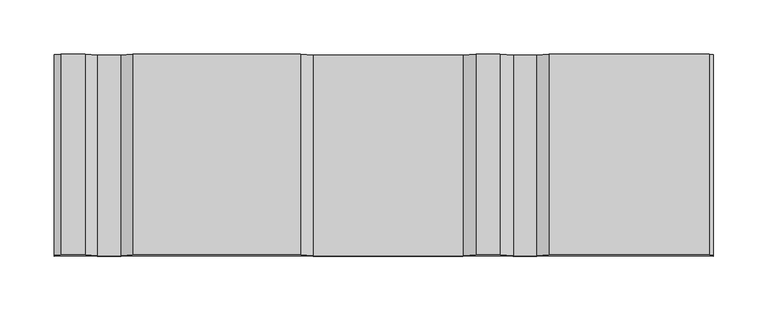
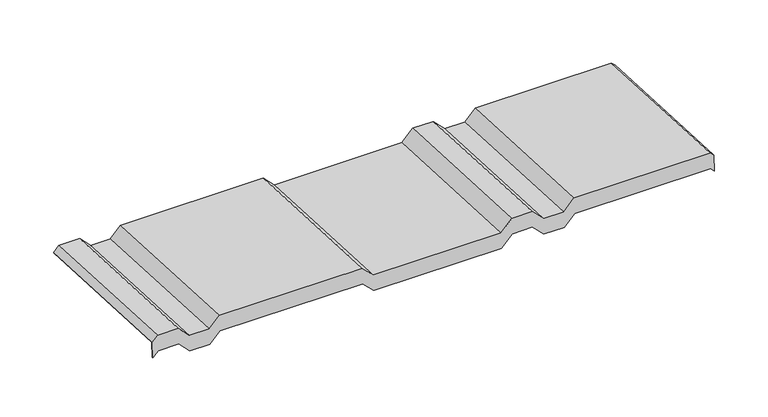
"""IFC4 building model written with IfcOpenShell, lengths in millimetres: proxy geometry, AQUAPLAST - Blachodachówka Alice : Blachodachówka Alice."""

import ifcopenshell
import ifcopenshell.guid

model = None  # the IFC model being written
_history = None  # IfcOwnerHistory: only IFC2X3 demands one
_inside = {}  # id of a spatial element -> (the spatial element, [elements in it])
_under = {}  # id of a project, library or spatial element -> (it, [spatial elements below it])
_declared = {}  # id of a project -> (the project, [libraries it declares])
_typed = {}  # id of a type object -> (the type object, [elements of that type])
_made_of = {}  # id of a material, layer set ... -> (it, [elements and type objects made of it])


def new_model(schema):
    """Start an empty IFC model of exactly this schema.

    Asked for "IFC4X3", IfcOpenShell would pick the latest addendum, in which some entities
    have other attributes; the version numbers below select the first issue.
    IFC2X3 requires an IfcOwnerHistory on every rooted entity: one is made here for all.
    """
    global model, _history
    if schema == "IFC4X3":
        model = ifcopenshell.file(schema_version=(4, 3, 0, 0))
    else:
        model = ifcopenshell.file(schema=schema)
    _inside.clear()
    _under.clear()
    _declared.clear()
    _typed.clear()
    _made_of.clear()
    _history = None
    if model.schema == "IFC2X3":
        org = make("IfcOrganization", Name="unknown")
        user = make(
            "IfcPersonAndOrganization",
            ThePerson=make("IfcPerson", FamilyName="unknown"),
            TheOrganization=org,
        )
        app = make(
            "IfcApplication",
            ApplicationDeveloper=org,
            Version="unknown",
            ApplicationFullName="unknown",
            ApplicationIdentifier="unknown",
        )
        _history = make(
            "IfcOwnerHistory",
            OwningUser=user,
            OwningApplication=app,
            ChangeAction="ADDED",
            CreationDate=0,
        )
    return model


def make(cls, **values):
    """One entity of the class cls with the attributes given. An attribute that is None is left unset."""
    return model.create_entity(
        cls, **{name: value for name, value in values.items() if value is not None}
    )


def rooted(cls, **values):
    """An entity with a GlobalId (a new one), such as an element, a storey or a relation."""
    return make(cls, GlobalId=ifcopenshell.guid.new(), OwnerHistory=_history, **values)


def si_unit(unit_type, name, prefix=None):
    """IfcSIUnit, for example si_unit("LENGTHUNIT", "METRE", prefix="MILLI")."""
    return make("IfcSIUnit", UnitType=unit_type, Prefix=prefix, Name=name)


def assignment(units):
    """IfcUnitAssignment: the units of a project."""
    return None if units is None else make("IfcUnitAssignment", Units=units)


def point(xyz):
    """IfcCartesianPoint."""
    return None if xyz is None else make("IfcCartesianPoint", Coordinates=xyz)


def direction(xyz):
    """IfcDirection."""
    return None if xyz is None else make("IfcDirection", DirectionRatios=xyz)


def frame(location, z_axis=None, x_axis=None):
    """IfcAxis2Placement3D, a coordinate frame: its origin and axes. An axis left out is left unset."""
    return make(
        "IfcAxis2Placement3D",
        Location=point(location),
        Axis=direction(z_axis),
        RefDirection=direction(x_axis),
    )


def origin():
    """The frame at (0, 0, 0) with its axes left unset."""
    return frame((0.0, 0.0, 0.0))


def place(relative_to, where):
    """IfcLocalPlacement: puts the frame where relative to a parent placement (None: the world)."""
    return make(
        "IfcLocalPlacement", PlacementRelTo=relative_to, RelativePlacement=where
    )


def context(
    kind, dimensions, precision=None, world=None, true_north=None, identifier=None
):
    """IfcGeometricRepresentationContext, for example the 3D "Model" context."""
    return make(
        "IfcGeometricRepresentationContext",
        ContextIdentifier=identifier,
        ContextType=kind,
        CoordinateSpaceDimension=dimensions,
        Precision=precision,
        WorldCoordinateSystem=world,
        TrueNorth=true_north,
    )


def project(units=None, contexts=None):
    """IfcProject with its units and contexts."""
    return rooted(
        "IfcProject",
        Name="project",
        RepresentationContexts=contexts,
        UnitsInContext=assignment(units),
    )


def spatial(cls, under=None, at=None, **own):
    """A site, building, storey or space (cls), placed at a placement, below another one or the project."""
    s = rooted(cls, ObjectPlacement=at, **own)
    if under is not None:
        _under.setdefault(under.id(), (under, []))[1].append(s)
    return s


def faces_of(points, faces, orient=None, outer=None):
    """IfcFace entities. A face is a list of loops; a loop is a list of indices into points, from 0.

    orient and outer hold one flag for each loop. By default every Orientation is true, the
    first loop of a face is its IfcFaceOuterBound and the others are IfcFaceBound.
    """
    made = []
    for i, loops in enumerate(faces):
        bounds = []
        for j, loop in enumerate(loops):
            is_outer = j == 0 if outer is None else outer[i][j]
            bounds.append(
                make(
                    "IfcFaceOuterBound" if is_outer else "IfcFaceBound",
                    Bound=make("IfcPolyLoop", Polygon=[points[k] for k in loop]),
                    Orientation=True if orient is None else orient[i][j],
                )
            )
        made.append(make("IfcFace", Bounds=bounds))
    return made


def faceted_brep(points, faces, orient=None, outer=None, voids=None):
    """IfcFacetedBrep: a solid bounded by flat faces; with voids (closed shells), ...WithVoids."""
    shared = [point(p) for p in points]
    hull = make("IfcClosedShell", CfsFaces=faces_of(shared, faces, orient, outer))
    if voids is None:
        return make("IfcFacetedBrep", Outer=hull)
    return make(
        "IfcFacetedBrepWithVoids",
        Outer=hull,
        Voids=[
            make(cls, CfsFaces=faces_of(shared, fs, o, b)) for cls, fs, o, b in voids
        ],
    )


def shape(context_of_items, identifier, shape_type, items):
    """IfcShapeRepresentation: the items that make up one representation, for example the "Body"."""
    return make(
        "IfcShapeRepresentation",
        ContextOfItems=context_of_items,
        RepresentationIdentifier=identifier,
        RepresentationType=shape_type,
        Items=items,
    )


def source(mapping_origin, context_of_items, identifier, shape_type, items):
    """IfcRepresentationMap: a shape defined once, which mapped items show again and again."""
    return make(
        "IfcRepresentationMap",
        MappingOrigin=mapping_origin,
        MappedRepresentation=shape(context_of_items, identifier, shape_type, items),
    )


def transform(
    local_origin,
    x_axis=None,
    y_axis=None,
    z_axis=None,
    scale=None,
    scale2=None,
    scale3=None,
    uniform=True,
):
    """IfcCartesianTransformationOperator3D, or its non-uniform kind. x_axis, y_axis, z_axis: its Axis1, 2, 3."""
    if uniform:
        return make(
            "IfcCartesianTransformationOperator3D",
            Axis1=direction(x_axis),
            Axis2=direction(y_axis),
            LocalOrigin=point(local_origin),
            Scale=scale,
            Axis3=direction(z_axis),
        )
    return make(
        "IfcCartesianTransformationOperator3DnonUniform",
        Axis1=direction(x_axis),
        Axis2=direction(y_axis),
        LocalOrigin=point(local_origin),
        Scale=scale,
        Axis3=direction(z_axis),
        Scale2=scale2,
        Scale3=scale3,
    )


def mapped(mapping_source, mapping_target):
    """IfcMappedItem: shows the shape of a source again, moved by a transform."""
    return make(
        "IfcMappedItem", MappingSource=mapping_source, MappingTarget=mapping_target
    )


def made_of(thing, what):
    """Note that an element or type object is made of a material, layer set ...; save() writes the relation."""
    if what is not None:
        _made_of.setdefault(what.id(), (what, []))[1].append(thing)
    return thing


def element(
    cls,
    number,
    at=None,
    inside=None,
    cuts=None,
    type_object=None,
    material=None,
    context=None,
    identifier="Body",
    shape_type=None,
    held_by="IfcProductDefinitionShape",
    body=None,
    shapes=None,
    **own,
):
    """One element of the class cls, such as IfcWall. Its Tag is "e" and its number.

    at: its placement. inside: the storey or other place that contains it. cuts: it is an
    opening in that element (IfcRelVoidsElement). A single representation is given by context,
    identifier, shape_type and body (its items); several are given by shapes. held_by: the class
    of the entity that holds the representations. save() writes the other relations.
    """
    e = rooted(cls, Tag="e%d" % number, ObjectPlacement=at, **own)
    if body is not None:
        shapes = [shape(context, identifier, shape_type, body)]
    if shapes is not None:
        e.Representation = make(held_by, Representations=shapes)
    if inside is not None:
        _inside.setdefault(inside.id(), (inside, []))[1].append(e)
    if cuts is not None:
        rooted(
            "IfcRelVoidsElement", RelatingBuildingElement=cuts, RelatedOpeningElement=e
        )
    if type_object is not None:
        _typed.setdefault(type_object.id(), (type_object, []))[1].append(e)
    return made_of(e, material)


def aggregate(whole, parts):
    """IfcRelAggregates: a whole, such as a stair, and the parts it consists of."""
    return rooted("IfcRelAggregates", RelatingObject=whole, RelatedObjects=parts)


def save(model, path):
    """Write the relations noted so far, then the file.

    IfcRelAggregates (storeys below a building ...), IfcRelContainedInSpatialStructure (elements
    in a storey), IfcRelDefinesByType, IfcRelAssociatesMaterial and IfcRelDeclares: one each for
    every whole, place, type object, material and project.
    """
    for whole, parts in _under.values():
        aggregate(whole, parts)
    for where, things in _inside.values():
        rooted(
            "IfcRelContainedInSpatialStructure",
            RelatedElements=things,
            RelatingStructure=where,
        )
    for kind, things in _typed.values():
        rooted("IfcRelDefinesByType", RelatedObjects=things, RelatingType=kind)
    for what, things in _made_of.values():
        rooted("IfcRelAssociatesMaterial", RelatedObjects=things, RelatingMaterial=what)
    for by, libraries in _declared.values():
        rooted("IfcRelDeclares", RelatingContext=by, RelatedDefinitions=libraries)
    model.write(path)


def specialty_equipment_d8c5127a(model_context):
    return source(origin(), model_context, "Body", "Brep", [
        faceted_brep([(-571.7598776, 0.6696996, 23.5766757), (-565.8406904, 0.9640097, 29.4885417), (-543.7088996, 0.9640097, 29.4885417), (-532.2088996, 0.3922139, 18.0027657), (-510.4160064, 0.3922139, 18.0027657), (-499.4160064, 0.939149, 28.9891601), (-345.3126919, 0.939149, 28.9891601), (-333.8126919, 0.3673532, 17.5033841), (-195.7283858, 0.3673532, 17.5033841), (-183.7283858, 0.9640097, 29.4885417), (-161.9160064, 0.9640097, 29.4885417), (-149.9160064, 0.3673532, 17.5033841), (-127.9160064, 0.3673532, 17.5033841), (-116.4160064, 0.939149, 28.9891601), (30.3015709, 0.939149, 28.9891601), (34.2401224, 0.7433189, 25.0554801), (34.2401224, -0.0870281, 8.3761359), (30.3015709, 0.1088021, 12.3098159), (-116.4160064, 0.1088021, 12.3098159), (-127.9160064, -0.4629937, 0.8240399), (-149.9160064, -0.4629937, 0.8240399), (-161.9160064, 0.1336628, 12.8091974), (-183.7283858, 0.1336628, 12.8091974), (-195.7283858, -0.4629937, 0.8240399), (-333.8126919, -0.4629937, 0.8240399), (-345.3126919, 0.1088021, 12.3098159), (-499.4160064, 0.1088021, 12.3098159), (-510.4160064, -0.438133, 1.3234215), (-532.2088996, -0.438133, 1.3234215), (-543.7088996, 0.1336628, 12.8091974), (-565.8406904, 0.1336628, 12.8091974), (-571.7598776, -0.1606473, 6.8973315), (-566.0477972, -0.0098927, 30.0376446), (-571.7598776, -0.2939052, 24.3326293), (-571.7598776, -1.1594105, 6.9470529), (-565.8406904, -0.8651003, 12.8589188), (-543.7088996, -0.8651003, 12.8589188), (-532.2088996, -1.4368961, 1.3731429), (-510.4160064, -1.4368961, 1.3731429), (-499.4160064, -0.889961, 12.3595373), (-345.3126919, -0.889961, 12.3595373), (-333.8126919, -1.4617568, 0.8737613), (-195.7283858, -1.4617568, 0.8737613), (-183.7283858, -0.8651003, 12.8589188), (-161.9160064, -0.8651003, 12.8589188), (-149.9160064, -1.4617568, 0.8737613), (-127.9160064, -1.4617568, 0.8737613), (-116.4160064, -0.889961, 12.3595373), (30.3015709, -0.889961, 12.3595373), (34.2401224, -1.0857912, 8.4258573), (34.2401224, -0.220286, 25.8114337), (30.5086777, -0.0347534, 29.538263), (-116.6231132, -0.0347534, 29.538263), (-128.1231132, -0.6065492, 18.0524871), (-149.7088996, -0.6065492, 18.0524871), (-161.7088996, -0.0098927, 30.0376446), (-183.9354926, -0.0098927, 30.0376446), (-195.9354926, -0.6065492, 18.0524871), (-333.6055852, -0.6065492, 18.0524871), (-345.1055852, -0.0347534, 29.538263), (-499.6231132, -0.0347534, 29.538263), (-510.6231132, -0.5816885, 18.5518686), (-532.0017928, -0.5816885, 18.5518686), (-543.5017928, -0.0098927, 30.0376446), (-510.6231132, 184.1894901, 9.3534145), (-532.0017928, 184.1894901, 9.3534145), (-499.6231132, 184.7364252, 20.3398089), (-345.1055852, 184.7364252, 20.3398089), (-333.6055852, 184.1646294, 8.8540329), (-195.9354926, 184.1646294, 8.8540329), (-183.9354926, 184.7612859, 20.8391904), (-161.7088996, 184.7612859, 20.8391904), (-149.7088996, 184.1646294, 8.8540329), (-128.1231132, 184.1646294, 8.8540329), (-116.6231132, 184.7364252, 20.3398089), (30.5086777, 184.7364252, 20.3398089), (34.2401224, 184.5508926, 16.6129795), (30.3015709, 184.7115645, 19.8404273), (34.2401224, 184.5157343, 15.9067473), (-116.4160064, 184.7115645, 19.8404273), (-127.9160064, 184.1397687, 8.3546514), (-149.9160064, 184.1397687, 8.3546514), (-161.9160064, 184.7364252, 20.3398089), (-183.7283858, 184.7364252, 20.3398089), (-195.7283858, 184.1397687, 8.3546514), (-333.8126919, 184.1397687, 8.3546514), (-345.3126919, 184.7115645, 19.8404273), (-499.4160064, 184.7115645, 19.8404273), (-510.4160064, 184.1646294, 8.8540329), (-532.2088996, 184.1646294, 8.8540329), (-543.7088996, 184.7364252, 20.3398089), (-565.8406904, 184.7364252, 20.3398089), (-571.7598776, 184.4421151, 14.4279429), (-566.0477972, 184.7612859, 20.8391904), (-571.7598776, 184.4772734, 15.1341751), (-543.5017928, 184.7612859, 20.8391904)], [[[0, 1, 2, 3, 4, 5, 6, 7, 8, 9, 10, 11, 12, 13, 14, 15, 16, 17, 18, 19, 20, 21, 22, 23, 24, 25, 26, 27, 28, 29, 30, 31]], [[32, 33, 34, 35, 36, 37, 38, 39, 40, 41, 42, 43, 44, 45, 46, 47, 48, 49, 50, 51, 52, 53, 54, 55, 56, 57, 58, 59, 60, 61, 62, 63]], [[61, 64, 65, 62]], [[60, 66, 64, 61]], [[59, 67, 66, 60]], [[58, 68, 67, 59]], [[57, 69, 68, 58]], [[56, 70, 69, 57]], [[55, 71, 70, 56]], [[54, 72, 71, 55]], [[53, 73, 72, 54]], [[52, 74, 73, 53]], [[51, 75, 74, 52]], [[51, 50, 76, 75]], [[77, 78, 15, 14]], [[77, 14, 13, 79]], [[79, 13, 12, 80]], [[80, 12, 11, 81]], [[81, 11, 10, 82]], [[82, 10, 9, 83]], [[83, 9, 8, 84]], [[84, 8, 7, 85]], [[85, 7, 6, 86]], [[86, 6, 5, 87]], [[87, 5, 4, 88]], [[88, 4, 3, 89]], [[89, 3, 2, 90]], [[90, 2, 1, 91]], [[91, 1, 0, 92]], [[93, 94, 33, 32]], [[63, 95, 93, 32]], [[62, 65, 95, 63]], [[17, 16, 49, 48]], [[47, 18, 17, 48]], [[46, 19, 18, 47]], [[45, 20, 19, 46]], [[44, 21, 20, 45]], [[43, 22, 21, 44]], [[42, 23, 22, 43]], [[41, 24, 23, 42]], [[40, 25, 24, 41]], [[39, 26, 25, 40]], [[38, 27, 26, 39]], [[37, 28, 27, 38]], [[36, 29, 28, 37]], [[35, 30, 29, 36]], [[34, 31, 30, 35]], [[34, 33, 94, 92, 0, 31]], [[49, 16, 15, 78, 76, 50]], [[64, 66, 67, 68, 69, 70, 71, 72, 73, 74, 75, 76, 78, 77, 79, 80, 81, 82, 83, 84, 85, 86, 87, 88, 89, 90, 91, 92, 94, 93, 95, 65]]]),
    ])


if __name__ == "__main__":
    model = new_model("IFC4")
    model_context = context("Model", 3, world=origin())
    ifc_project = project(units=[si_unit("LENGTHUNIT", "METRE", prefix="MILLI")], contexts=[model_context])
    site = spatial("IfcSite", under=ifc_project)
    building = spatial("IfcBuilding", under=site)
    placement = place(None, origin())
    specialty_equipment_shape = specialty_equipment_d8c5127a(model_context)
    element("IfcBuildingElementProxy", 1, Name="AQUAPLAST - Blachodachówka Alice : Blachodachówka Alice", ObjectType="AQUAPLAST - Blachodachówka Alice : Blachodachówka Alice", at=placement, inside=building, context=model_context, shape_type="MappedRepresentation", body=[
        mapped(specialty_equipment_shape, transform((0.0, 0.0, 0.0), x_axis=(1.0, 0.0, 0.0), y_axis=(0.0, 1.0, 0.0), z_axis=(0.0, 0.0, 1.0))),
    ])
    save(model, "model.ifc")
